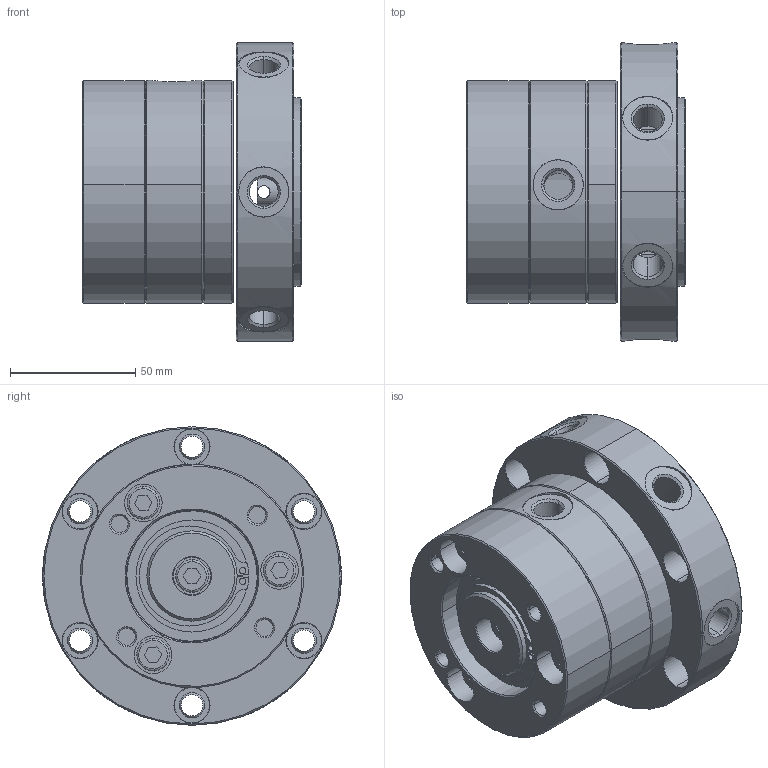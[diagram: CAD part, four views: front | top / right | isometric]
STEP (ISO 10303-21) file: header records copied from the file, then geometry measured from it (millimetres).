
FILE_DESCRIPTION (( 'STEP AP203' ), '1' );
FILE_NAME ('IRJ05-001.STEP', '2015-08-05T14:09:52', ( '' ), ( '' ), 'SwSTEP 2.0', 'SolidWorks 2014', '' );
FILE_SCHEMA (( 'CONFIG_CONTROL_DESIGN' ));
Length unit declared in the file: millimetre
Products named in the file (1): IRJ05-001
Bounding box: 87.2 x 119 x 119 mm (x, y, z)
Surface area: 88491.8 mm2 (no closed solid volume)
Topology: 0 solids, 14 shells, 295 faces, 908 edges, 624 vertices
Faces by surface type: cylinder 121, cone 82, plane 77, torus 8, bspline 7
Entity records: 12438 total; most frequent: CARTESIAN_POINT 4186, DIRECTION 1797, ORIENTED_EDGE 1454, EDGE_CURVE 908, AXIS2_PLACEMENT_3D 688, VERTEX_POINT 624, VECTOR 421, LINE 421
